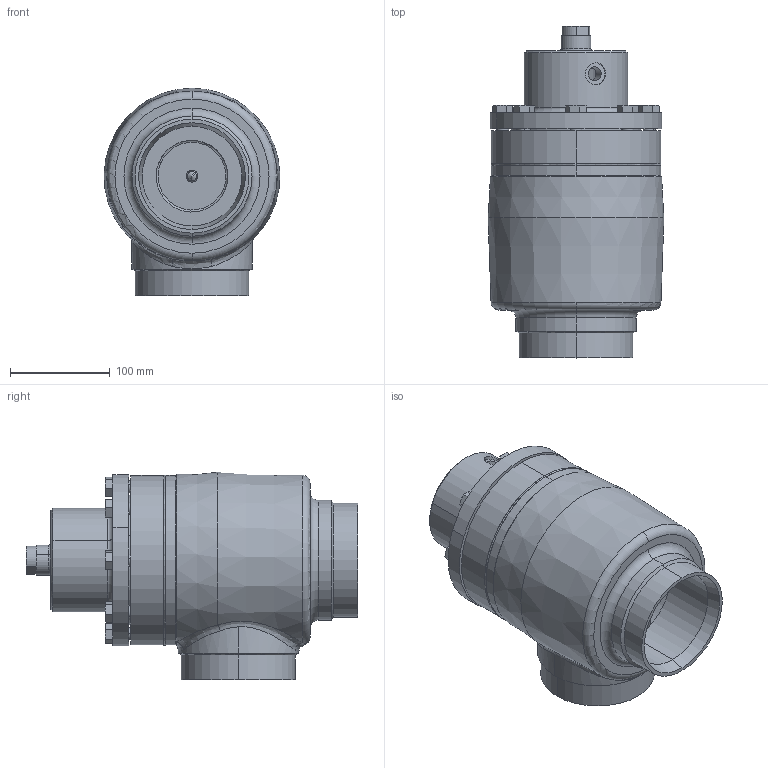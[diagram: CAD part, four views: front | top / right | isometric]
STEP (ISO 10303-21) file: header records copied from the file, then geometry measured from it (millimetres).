
FILE_DESCRIPTION (( 'STEP AP214' ), '1' );
FILE_NAME ('RVD4280xC19-DN100_1-4bar.STEP', '2007-01-10T14:56:38', ( 'Herr Grams' ), ( 'AWP GmbH' ), 'SwSTEP 2.0', 'SolidWorks 2002296', '' );
FILE_SCHEMA (( 'AUTOMOTIVE_DESIGN' ));
Length unit declared in the file: millimetre
Products named in the file (9): RVD4280xC19-DN100_1-4bar; RVD42700E19_Deck+Schr-DN100_1-4bar_Standard; Deckel42700E19-DN100_1-4bar_PS40_Standard; Sechskantschraube-DIN933_M12x 30; Gehäuse-kpl16400-DN100_R1_Standard; Gehäuse16400-DN100_Standard; bead-DN100-1_Standard; Kopfstück16300-DN100_Standard; Verschlußschr4270xE19-DN100_1-6bar_M12x105_4bar
Assembly tree (15 placements, depth 3):
  RVD4280xC19-DN100_1-4bar
    Gehäuse-kpl16400-DN100_R1_Standard
      bead-DN100-1_Standard
      Kopfstück16300-DN100_Standard
      Gehäuse16400-DN100_Standard
    RVD42700E19_Deck+Schr-DN100_1-4bar_Standard
      Sechskantschraube-DIN933_M12x 30  x8
      Deckel42700E19-DN100_1-4bar_PS40_Standard
    Verschlußschr4270xE19-DN100_1-6bar_M12x105_4bar
Bounding box: 176.38 x 333 x 208.23 mm (x, y, z)
Volume: 2698185.4 mm3; surface area: 478507.7 mm2
Topology: 13 solids, 13 shells, 338 faces, 729 edges, 434 vertices
Faces by surface type: cone 134, plane 98, cylinder 85, torus 11, bspline 10
Entity records: 16896 total; most frequent: CARTESIAN_POINT 12654, DIRECTION 829, ORIENTED_EDGE 722, AXIS2_PLACEMENT_3D 363, EDGE_CURVE 361, VERTEX_POINT 224, EDGE_LOOP 203, CIRCLE 190
